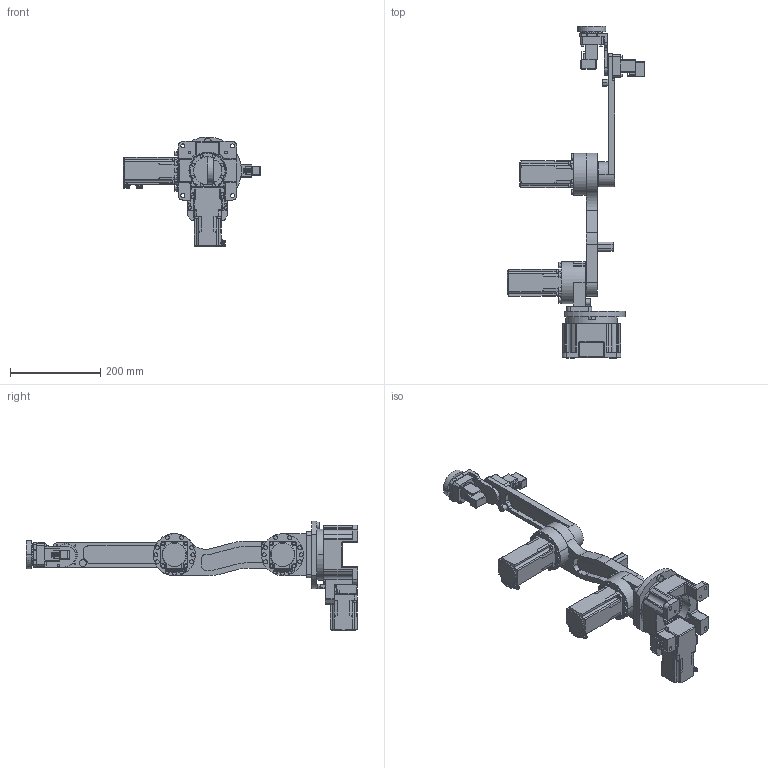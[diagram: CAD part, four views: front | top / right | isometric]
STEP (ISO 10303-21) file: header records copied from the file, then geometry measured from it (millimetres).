
FILE_DESCRIPTION (( 'STEP AP203' ), '1' );
FILE_NAME ('R029.STEP', '2026-06-26T00:54:04', ( '' ), ( '' ), 'SwSTEP 2.0', 'SolidWorks 2023', '' );
FILE_SCHEMA (( 'CONFIG_CONTROL_DESIGN' ));
Length unit declared in the file: millimetre
Products named in the file (7): R029_Movingpart3; R029_Movingpart1; R029_Movingpart2; R029; R029_Movingpart5; R029_Movingpart4; R029_BASE
Assembly tree (6 placements, depth 2):
  R029
    R029_BASE
    R029_Movingpart1
    R029_Movingpart2
    R029_Movingpart3
    R029_Movingpart4
    R029_Movingpart5
Bounding box: 305.5 x 736 x 243.74 mm (x, y, z)
Volume: 3687277.8 mm3; surface area: 482145.1 mm2
Topology: 6 solids, 24 shells, 2028 faces, 5087 edges, 3218 vertices
Faces by surface type: cylinder 983, plane 826, cone 125, torus 64, bspline 20, sphere 10
Entity records: 62651 total; most frequent: CARTESIAN_POINT 12328, DIRECTION 10981, ORIENTED_EDGE 9954, EDGE_CURVE 4977, AXIS2_PLACEMENT_3D 4157, VERTEX_POINT 3218, VECTOR 2667, LINE 2667
